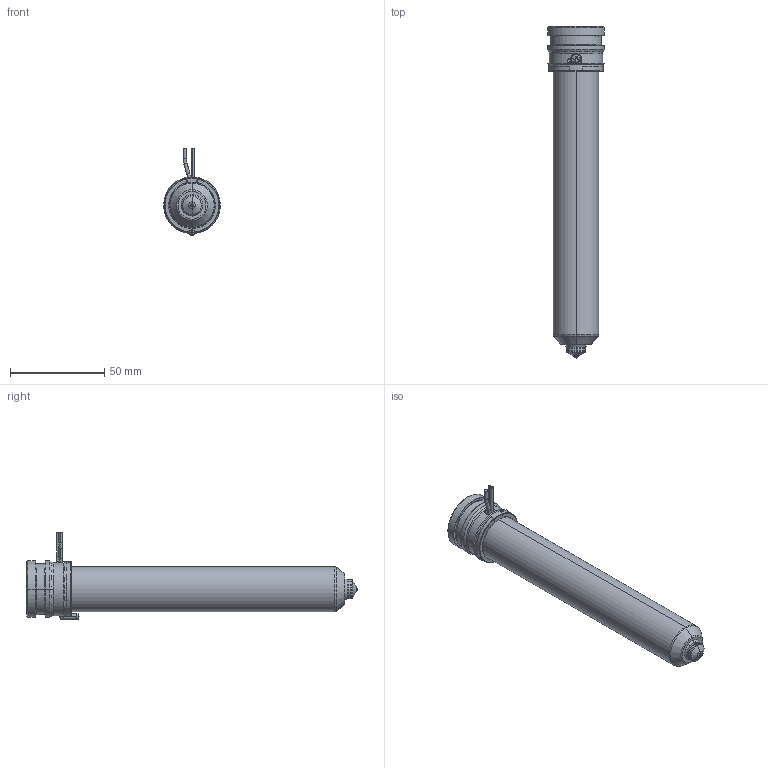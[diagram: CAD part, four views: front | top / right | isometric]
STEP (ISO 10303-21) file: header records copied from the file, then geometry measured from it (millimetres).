
FILE_DESCRIPTION((''),'2;1');
FILE_NAME('MPN-10-29-VSA10-156-A','2026-02-05T12:45:08',('UPTIO'),('Thermoplay S.p.A.'),'CREO PARAMETRIC BY PTC INC, 2023494','CREO PARAMETRIC BY PTC INC, 2023494','');
FILE_SCHEMA(('CONFIG_CONTROL_DESIGN','SHAPE_APPEARANCE_LAYERS_GROUPS'));
Length unit declared in the file: millimetre
Products named in the file (1): MPN-10-29-VSA10-156-A
Bounding box: 30 x 176 x 46 mm (x, y, z)
Volume: 54889.9 mm3; surface area: 55496.4 mm2
Topology: 2 solids, 3 shells, 556 faces, 1451 edges, 894 vertices
Faces by surface type: cylinder 184, plane 142, bspline 77, torus 70, cone 70, sphere 9, extrusion 4
Entity records: 30656 total; most frequent: CARTESIAN_POINT 14242, ORIENTED_EDGE 2890, DIRECTION 2691, EDGE_CURVE 1445, AXIS2_PLACEMENT_3D 1066, VERTEX_POINT 894, CIRCLE 590, EDGE_LOOP 585
